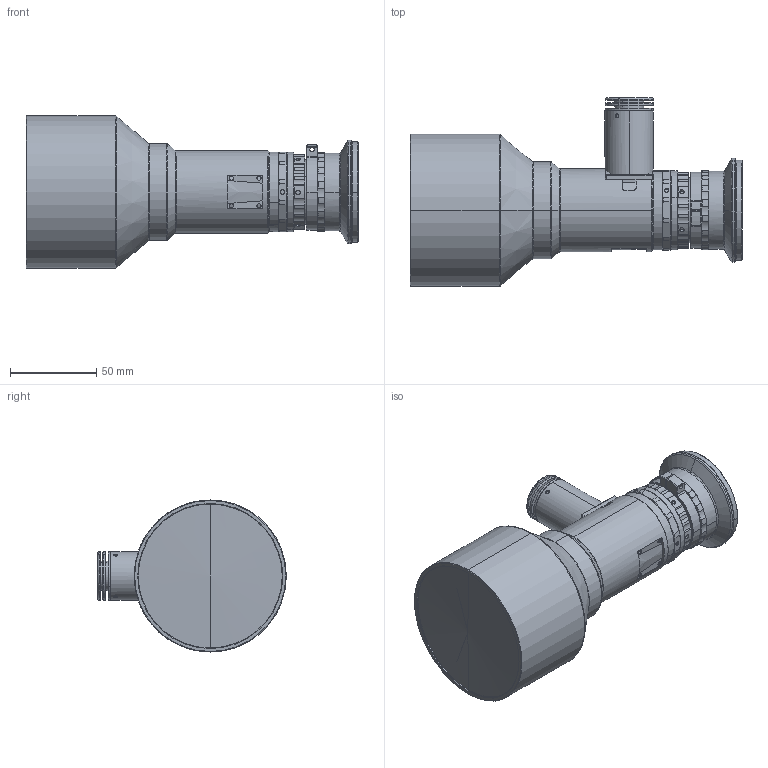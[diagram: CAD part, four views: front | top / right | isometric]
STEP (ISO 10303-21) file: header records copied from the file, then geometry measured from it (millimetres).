
FILE_DESCRIPTION (( 'STEP AP203' ), '1' );
FILE_NAME ('DTCA185-66C-G-M58-AL.STEP', '2022-12-30T02:50:09', ( '' ), ( '' ), 'SwSTEP 2.0', 'SolidWorks 2017', '' );
FILE_SCHEMA (( 'CONFIG_CONTROL_DESIGN' ));
Length unit declared in the file: millimetre
Products named in the file (1): DTCA185-66C-G-M58-AL
Bounding box: 192.1 x 109.1 x 88 mm (x, y, z)
Volume: 628297.8 mm3; surface area: 58932.8 mm2
Topology: 1 solids, 8 shells, 803 faces, 2076 edges, 1324 vertices
Faces by surface type: cylinder 278, plane 235, cone 225, bspline 65
Entity records: 28556 total; most frequent: CARTESIAN_POINT 9319, ORIENTED_EDGE 4136, DIRECTION 3924, EDGE_CURVE 2068, AXIS2_PLACEMENT_3D 1600, VERTEX_POINT 1324, EDGE_LOOP 880, CIRCLE 861
